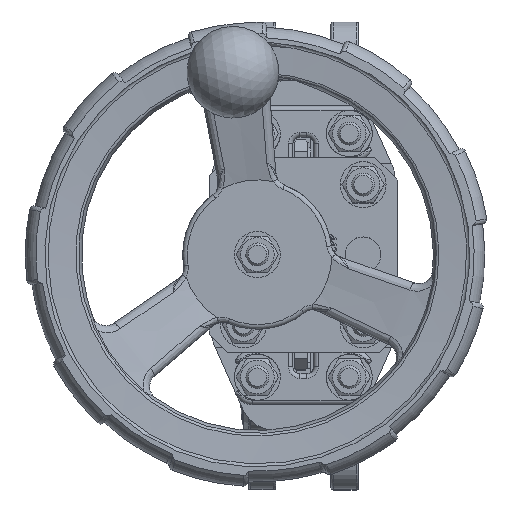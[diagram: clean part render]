
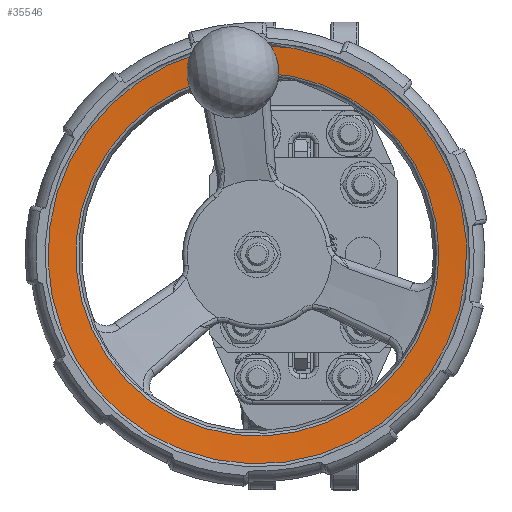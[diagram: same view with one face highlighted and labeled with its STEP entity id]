
A CAD part, top view. The second image highlights one B-rep face of the part: STEP entity #35546.
In plain terms, the highlighted conical face has half-angle 85 degrees and reference radius 92.5 mm.
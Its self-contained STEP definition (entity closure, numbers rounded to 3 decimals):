
#447=CONICAL_SURFACE('',#37881,92.5,1.484);
#1517=B_SPLINE_CURVE_WITH_KNOTS('',3,(#52026,#52027,#52028,#52029),
 .UNSPECIFIED.,.F.,.F.,(4,4),(0.014,0.024),
 .UNSPECIFIED.);
#1518=B_SPLINE_CURVE_WITH_KNOTS('',3,(#52042,#52043,#52044,#52045),
 .UNSPECIFIED.,.F.,.F.,(4,4),(0.021,0.032),
 .UNSPECIFIED.);
#2865=CIRCLE('',#37791,91.131);
#2867=CIRCLE('',#37793,91.131);
#2914=CIRCLE('',#37877,79.042);
#2915=CIRCLE('',#37879,12.595);
#2916=CIRCLE('',#37880,12.595);
#4438=FACE_OUTER_BOUND('',#6558,.T.);
#6558=EDGE_LOOP('',(#24926,#24927,#24928,#24929,#24930,#24931,#24932));
#14459=VERTEX_POINT('',#52024);
#14460=VERTEX_POINT('',#52025);
#14465=VERTEX_POINT('',#52039);
#14466=VERTEX_POINT('',#52041);
#14624=VERTEX_POINT('',#68673);
#14681=VERTEX_POINT('',#82462);
#14682=VERTEX_POINT('',#82471);
#18152=EDGE_CURVE('',#14459,#14460,#1517,.T.);
#18158=EDGE_CURVE('',#14466,#14465,#1518,.T.);
#18359=EDGE_CURVE('',#14465,#14624,#2865,.T.);
#18361=EDGE_CURVE('',#14624,#14459,#2867,.T.);
#18499=EDGE_CURVE('',#14681,#14682,#2914,.T.);
#18500=EDGE_CURVE('',#14682,#14466,#2915,.T.);
#18501=EDGE_CURVE('',#14460,#14681,#2916,.T.);
#24926=ORIENTED_EDGE('',*,*,#18158,.T.);
#24927=ORIENTED_EDGE('',*,*,#18359,.T.);
#24928=ORIENTED_EDGE('',*,*,#18361,.T.);
#24929=ORIENTED_EDGE('',*,*,#18152,.T.);
#24930=ORIENTED_EDGE('',*,*,#18501,.T.);
#24931=ORIENTED_EDGE('',*,*,#18499,.T.);
#24932=ORIENTED_EDGE('',*,*,#18500,.T.);
#35546=ADVANCED_FACE('',(#4438),#447,.F.);
#37791=AXIS2_PLACEMENT_3D('',#68675,#41935,#41936);
#37793=AXIS2_PLACEMENT_3D('',#68677,#41939,#41940);
#37877=AXIS2_PLACEMENT_3D('',#82480,#42116,#42117);
#37879=AXIS2_PLACEMENT_3D('',#82482,#42120,#42121);
#37880=AXIS2_PLACEMENT_3D('',#82483,#42122,#42123);
#37881=AXIS2_PLACEMENT_3D('',#82484,#42124,#42125);
#41935=DIRECTION('center_axis',(0.,0.,
1.));
#41936=DIRECTION('ref_axis',(0.133,-0.991,0.));
#41939=DIRECTION('center_axis',(0.,0.,
1.));
#41940=DIRECTION('ref_axis',(0.133,-0.991,0.));
#42116=DIRECTION('center_axis',(0.,0.,
-1.));
#42117=DIRECTION('ref_axis',(-0.133,0.991,0.));
#42120=DIRECTION('center_axis',(-0.025,0.084,
-0.996));
#42121=DIRECTION('ref_axis',(-0.991,-0.134,0.013));
#42122=DIRECTION('center_axis',(0.002,0.087,
-0.996));
#42123=DIRECTION('ref_axis',(1.,-0.021,0.));
#42124=DIRECTION('center_axis',(0.,0.,
1.));
#42125=DIRECTION('ref_axis',(0.133,-0.991,0.));
#52024=CARTESIAN_POINT('',(-19.63,91.13,379.124));
#52025=CARTESIAN_POINT('',(-18.262,80.953,378.235));
#52026=CARTESIAN_POINT('Ctrl Pts',(-19.63,91.13,379.124));
#52027=CARTESIAN_POINT('Ctrl Pts',(-19.174,87.738,378.828));
#52028=CARTESIAN_POINT('Ctrl Pts',(-18.718,84.345,378.531));
#52029=CARTESIAN_POINT('Ctrl Pts',(-18.262,80.953,378.235));
#52039=CARTESIAN_POINT('',(-44.407,87.802,379.124));
#52041=CARTESIAN_POINT('',(-43.04,77.625,378.235));
#52042=CARTESIAN_POINT('Ctrl Pts',(-43.04,77.625,378.235));
#52043=CARTESIAN_POINT('Ctrl Pts',(-43.496,81.017,378.531));
#52044=CARTESIAN_POINT('Ctrl Pts',(-43.951,84.409,378.828));
#52045=CARTESIAN_POINT('Ctrl Pts',(-44.407,87.802,379.124));
#68673=CARTESIAN_POINT('',(-7.867,-90.319,379.124));
#68675=CARTESIAN_POINT('Origin',(-20.,0.,
379.124));
#68677=CARTESIAN_POINT('Origin',(-20.,0.,
379.124));
#82462=CARTESIAN_POINT('',(-18.154,79.02,378.067));
#82471=CARTESIAN_POINT('',(-42.634,75.732,378.067));
#82480=CARTESIAN_POINT('Origin',(-20.,0.,
378.067));
#82482=CARTESIAN_POINT('Origin',(-30.56,79.316,378.067));
#82483=CARTESIAN_POINT('Origin',(-30.746,79.291,378.067));
#82484=CARTESIAN_POINT('Origin',(-20.,0.,
379.244));
